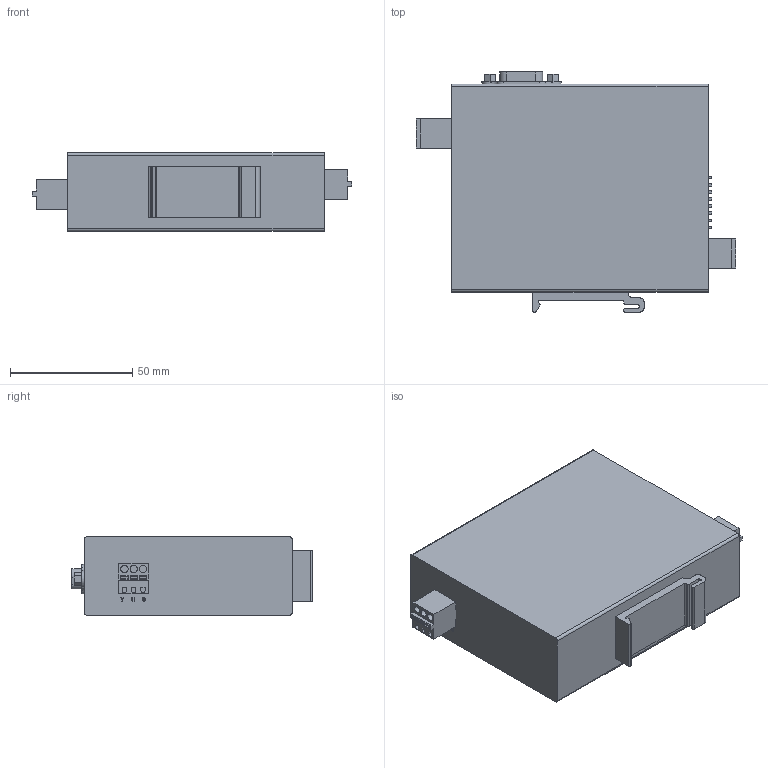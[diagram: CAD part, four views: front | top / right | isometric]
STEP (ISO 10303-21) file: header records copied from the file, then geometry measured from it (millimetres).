
FILE_DESCRIPTION((''),'2;1');
FILE_NAME('ASM0002_ASM_4_ASM_ASM','2026-05-28T',('Administrator'),(''),'PRO/ENGINEER BY PARAMETRIC TECHNOLOGY CORPORATION, 2015240','PRO/ENGINEER BY PARAMETRIC TECHNOLOGY CORPORATION, 2015240','');
FILE_SCHEMA(('CONFIG_CONTROL_DESIGN'));
Products named in the file (12): PRT0001_2; AMP_RJ45_MODULAR_JACK_HOUSING_1; AMP_RJ45_MODULAR_JACK_PIN_1; PRT0007; AMP_RJ45_MODULAR_JACK_SHIELD_1; ASM0001_ASM_1_ASM_ASM; ASM0003_ASM_ASM; 01_1; PRT0005_1; 02_1; PRT0006_1; ASM0002_ASM_4_ASM_ASM
Assembly tree (27 placements, depth 4):
  ASM0002_ASM_4_ASM_ASM
    PRT0001_2
    ASM0003_ASM_ASM
      ASM0001_ASM_1_ASM_ASM
        AMP_RJ45_MODULAR_JACK_HOUSING_1
        AMP_RJ45_MODULAR_JACK_PIN_1  x8
        PRT0007  x8
        AMP_RJ45_MODULAR_JACK_SHIELD_1
    ASM0001_ASM_1_ASM_ASM
      AMP_RJ45_MODULAR_JACK_HOUSING_1
      AMP_RJ45_MODULAR_JACK_PIN_1  x8
      PRT0007  x8
      AMP_RJ45_MODULAR_JACK_SHIELD_1
    01_1
    PRT0005_1
    02_1  x2
    PRT0006_1
Bounding box: 130.75 x 98.21 x 32 mm (x, y, z)
Volume: 289463.8 mm3; surface area: 51542.5 mm2
Topology: 42 solids, 42 shells, 3968 faces, 11239 edges, 7468 vertices
Faces by surface type: plane 3143, cylinder 707, bspline 88, sphere 22, torus 8
Entity records: 91157 total; most frequent: CARTESIAN_POINT 18851, ORIENTED_EDGE 15620, DIRECTION 14014, EDGE_CURVE 7810, VECTOR 6460, LINE 6460, VERTEX_POINT 5189, AXIS2_PLACEMENT_3D 3777
